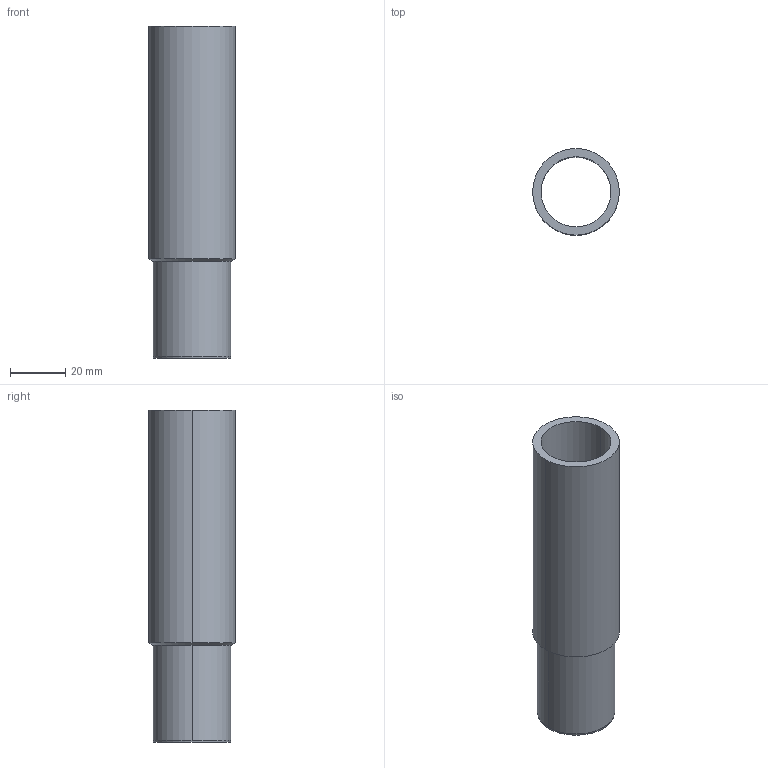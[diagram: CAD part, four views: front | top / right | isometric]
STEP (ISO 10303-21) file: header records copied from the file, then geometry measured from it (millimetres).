
FILE_DESCRIPTION(('OneSpaceDesigner STEP Export'),'2;1');
FILE_NAME('C1432 31x28.stp','2010-06-15T16:30:04',(''),(''),'OneSpace Designer STEP processor for AP214 (Solid Model)','OneSpace Modeling 15.00A 14-Mar-2007 (C) CoCreate Software GmbH','');
FILE_SCHEMA(('AUTOMOTIVE_DESIGN { 1 0 10303 214 1 1 1 1 }'));
Length unit declared in the file: millimetre
Products named in the file (2): C1432_31x28
Assembly tree (1 placements, depth 2):
  C1432_31x28
    C1432_31x28
Bounding box: 31.3 x 31.3 x 120 mm (x, y, z)
Volume: 26562.9 mm3; surface area: 21436.7 mm2
Topology: 1 solids, 1 shells, 13 faces, 26 edges, 16 vertices
Faces by surface type: cylinder 6, cone 4, plane 3
Entity records: 328 total; most frequent: ORIENTED_EDGE 52, DIRECTION 46, CARTESIAN_POINT 44, EDGE_CURVE 26, AXIS2_PLACEMENT_3D 18, VERTEX_POINT 16, EDGE_LOOP 16, FACE_OUTER_BOUND 13
